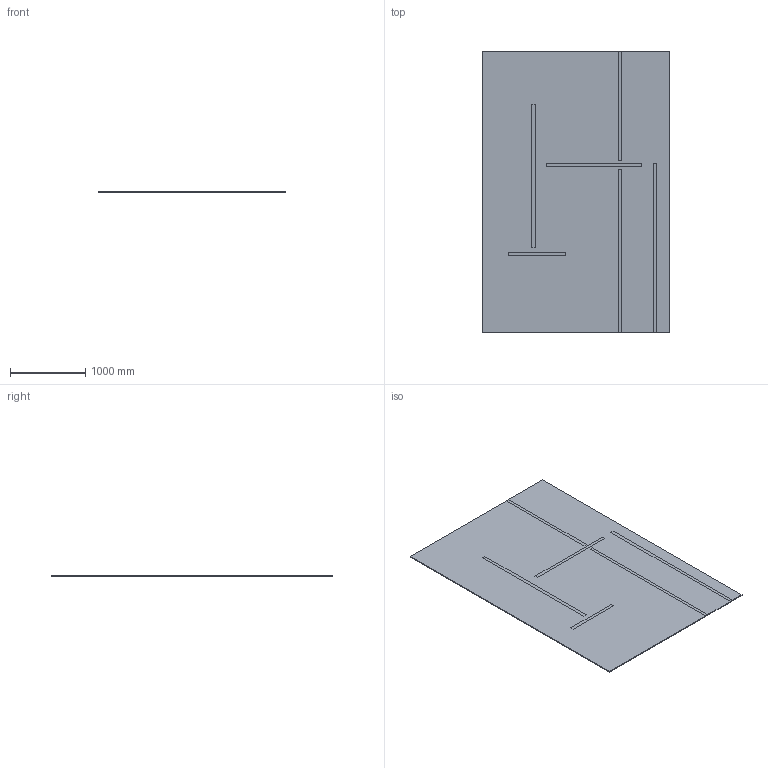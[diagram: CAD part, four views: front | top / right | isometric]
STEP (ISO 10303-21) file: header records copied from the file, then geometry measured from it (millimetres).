
FILE_DESCRIPTION(/* description */ (''),/* implementation_level */ '2;1');
FILE_NAME(/* name */ 'Monolith-Rug_250x375_3D_JS_20231010',/* time_stamp */ '2023-10-11T12:19:49+02:00',/* author */ (''),/* organization */ (''),/* preprocessor_version */ 'ST-DEVELOPER v16.5',/* originating_system */ 'Rhino 7.33',/* authorisation */ '');
FILE_SCHEMA (('CONFIG_CONTROL_DESIGN'));
Length unit declared in the file: millimetre
Products named in the file (1): Document
Bounding box: 2500 x 3750 x 12 mm (x, y, z)
Volume: 112499992.4 mm3; surface area: 19381195.9 mm2
Topology: 7 solids, 7 shells, 66 faces, 156 edges, 104 vertices
Faces by surface type: plane 66
Entity records: 1724 total; most frequent: CARTESIAN_POINT 484, ORIENTED_EDGE 312, EDGE_CURVE 156, B_SPLINE_CURVE_WITH_KNOTS 156, VERTEX_POINT 104, EDGE_LOOP 72, DIRECTION 70, AXIS2_PLACEMENT_3D 68
